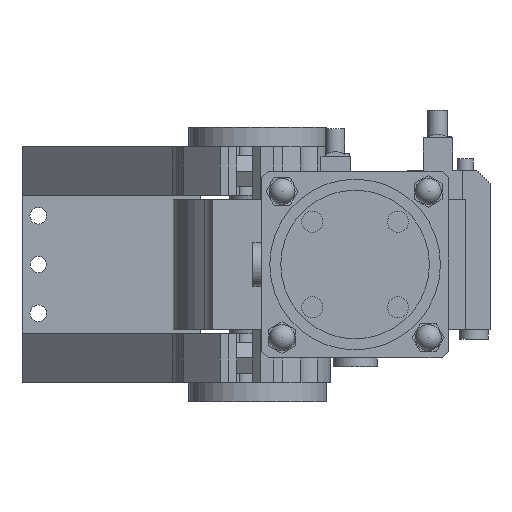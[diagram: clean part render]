
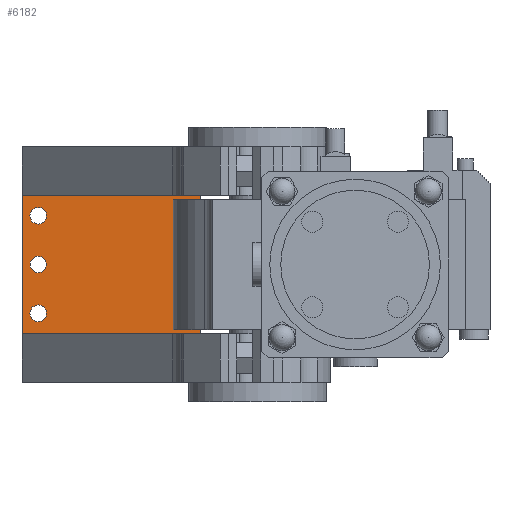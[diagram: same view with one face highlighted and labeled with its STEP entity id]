
A CAD part, front view. The second image highlights one B-rep face of the part: STEP entity #6182.
In plain terms, the highlighted planar face has unit normal (0, -1, 0).
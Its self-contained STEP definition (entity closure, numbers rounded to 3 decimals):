
#314=LINE('',#9722,#920);
#339=LINE('',#9801,#945);
#385=LINE('',#9893,#991);
#392=LINE('',#9906,#998);
#920=VECTOR('',#7864,1000.);
#945=VECTOR('',#7921,1000.);
#991=VECTOR('',#8043,1000.);
#998=VECTOR('',#8062,1000.);
#1411=PLANE('',#6874);
#1658=FACE_BOUND('',#2379,.T.);
#1659=FACE_BOUND('',#2380,.T.);
#1660=FACE_BOUND('',#2381,.T.);
#1661=FACE_BOUND('',#2382,.T.);
#1662=FACE_BOUND('',#2383,.T.);
#1663=FACE_BOUND('',#2384,.T.);
#1920=FACE_OUTER_BOUND('',#2378,.T.);
#2378=EDGE_LOOP('',(#5075,#5076,#5077,#5078));
#2379=EDGE_LOOP('',(#5079));
#2380=EDGE_LOOP('',(#5080));
#2381=EDGE_LOOP('',(#5081));
#2382=EDGE_LOOP('',(#5082));
#2383=EDGE_LOOP('',(#5083));
#2384=EDGE_LOOP('',(#5084));
#2743=CIRCLE('',#6768,5.);
#2745=CIRCLE('',#6771,5.);
#2747=CIRCLE('',#6774,5.1);
#2749=CIRCLE('',#6777,5.1);
#2751=CIRCLE('',#6780,5.1);
#2753=CIRCLE('',#6783,5.1);
#3059=VERTEX_POINT('',#9546);
#3061=VERTEX_POINT('',#9551);
#3063=VERTEX_POINT('',#9556);
#3065=VERTEX_POINT('',#9561);
#3067=VERTEX_POINT('',#9566);
#3069=VERTEX_POINT('',#9571);
#3139=VERTEX_POINT('',#9720);
#3140=VERTEX_POINT('',#9721);
#3177=VERTEX_POINT('',#9798);
#3178=VERTEX_POINT('',#9800);
#3703=EDGE_CURVE('',#3059,#3059,#2743,.T.);
#3705=EDGE_CURVE('',#3061,#3061,#2745,.T.);
#3707=EDGE_CURVE('',#3063,#3063,#2747,.T.);
#3709=EDGE_CURVE('',#3065,#3065,#2749,.T.);
#3711=EDGE_CURVE('',#3067,#3067,#2751,.T.);
#3713=EDGE_CURVE('',#3069,#3069,#2753,.T.);
#3786=EDGE_CURVE('',#3139,#3140,#314,.T.);
#3826=EDGE_CURVE('',#3177,#3178,#339,.T.);
#3873=EDGE_CURVE('',#3178,#3140,#385,.T.);
#3880=EDGE_CURVE('',#3139,#3177,#392,.T.);
#5075=ORIENTED_EDGE('',*,*,#3826,.F.);
#5076=ORIENTED_EDGE('',*,*,#3880,.F.);
#5077=ORIENTED_EDGE('',*,*,#3786,.T.);
#5078=ORIENTED_EDGE('',*,*,#3873,.F.);
#5079=ORIENTED_EDGE('',*,*,#3703,.T.);
#5080=ORIENTED_EDGE('',*,*,#3705,.T.);
#5081=ORIENTED_EDGE('',*,*,#3707,.T.);
#5082=ORIENTED_EDGE('',*,*,#3709,.T.);
#5083=ORIENTED_EDGE('',*,*,#3711,.T.);
#5084=ORIENTED_EDGE('',*,*,#3713,.T.);
#6182=ADVANCED_FACE('',(#1920,#1658,#1659,#1660,#1661,#1662,#1663),#1411,
 .F.);
#6768=AXIS2_PLACEMENT_3D('',#9547,#7727,#7728);
#6771=AXIS2_PLACEMENT_3D('',#9552,#7733,#7734);
#6774=AXIS2_PLACEMENT_3D('',#9557,#7739,#7740);
#6777=AXIS2_PLACEMENT_3D('',#9562,#7745,#7746);
#6780=AXIS2_PLACEMENT_3D('',#9567,#7751,#7752);
#6783=AXIS2_PLACEMENT_3D('',#9572,#7757,#7758);
#6874=AXIS2_PLACEMENT_3D('',#9912,#8071,#8072);
#7727=DIRECTION('center_axis',(0.,1.,0.));
#7728=DIRECTION('ref_axis',(0.,0.,1.));
#7733=DIRECTION('center_axis',(0.,1.,0.));
#7734=DIRECTION('ref_axis',(0.,0.,1.));
#7739=DIRECTION('center_axis',(0.,1.,0.));
#7740=DIRECTION('ref_axis',(0.,0.,1.));
#7745=DIRECTION('center_axis',(0.,1.,0.));
#7746=DIRECTION('ref_axis',(0.,0.,1.));
#7751=DIRECTION('center_axis',(0.,1.,0.));
#7752=DIRECTION('ref_axis',(0.,0.,1.));
#7757=DIRECTION('center_axis',(0.,1.,0.));
#7758=DIRECTION('ref_axis',(0.,0.,1.));
#7864=DIRECTION('',(1.,0.,0.));
#7921=DIRECTION('',(1.,0.,0.));
#8043=DIRECTION('',(0.,0.,-1.));
#8062=DIRECTION('',(0.,0.,1.));
#8071=DIRECTION('center_axis',(0.,1.,0.));
#8072=DIRECTION('ref_axis',(0.,0.,1.));
#9546=CARTESIAN_POINT('',(-45.,140.,5.));
#9547=CARTESIAN_POINT('Origin',(-45.,140.,0.));
#9551=CARTESIAN_POINT('',(-135.,140.,5.));
#9552=CARTESIAN_POINT('Origin',(-135.,140.,0.));
#9556=CARTESIAN_POINT('',(-45.,140.,-24.9));
#9557=CARTESIAN_POINT('Origin',(-45.,140.,-30.));
#9561=CARTESIAN_POINT('',(-45.,140.,35.1));
#9562=CARTESIAN_POINT('Origin',(-45.,140.,30.));
#9566=CARTESIAN_POINT('',(-135.,140.,35.1));
#9567=CARTESIAN_POINT('Origin',(-135.,140.,30.));
#9571=CARTESIAN_POINT('',(-135.,140.,-24.9));
#9572=CARTESIAN_POINT('Origin',(-135.,140.,-30.));
#9720=CARTESIAN_POINT('',(-145.,140.,-42.5));
#9721=CARTESIAN_POINT('',(-35.,140.,-42.5));
#9722=CARTESIAN_POINT('',(-150.,140.,-42.5));
#9798=CARTESIAN_POINT('',(-145.,140.,42.5));
#9800=CARTESIAN_POINT('',(-35.,140.,42.5));
#9801=CARTESIAN_POINT('',(-150.,140.,42.5));
#9893=CARTESIAN_POINT('',(-35.,140.,72.5));
#9906=CARTESIAN_POINT('',(-145.,140.,72.5));
#9912=CARTESIAN_POINT('Origin',(-150.,140.,-42.5));
